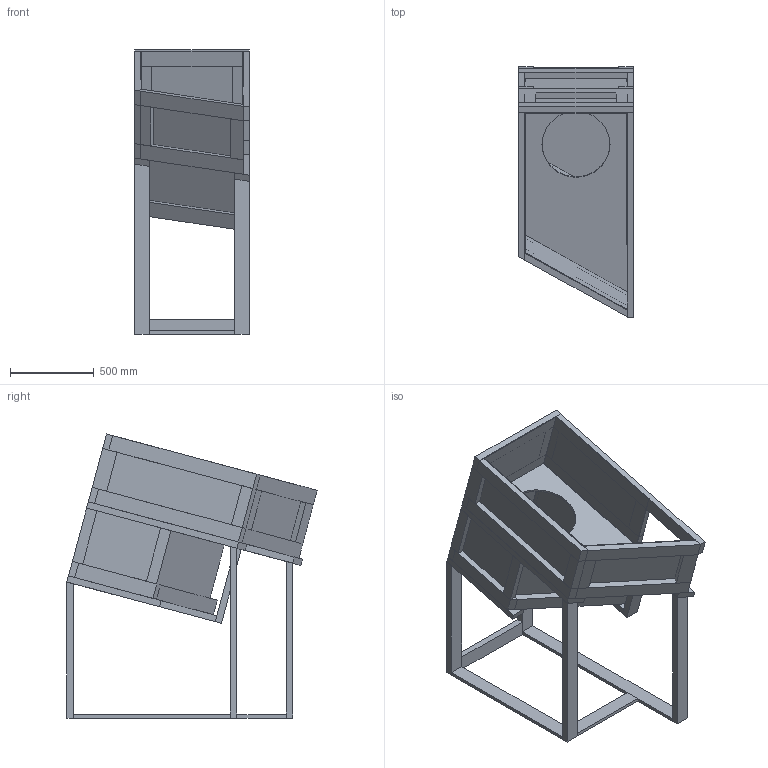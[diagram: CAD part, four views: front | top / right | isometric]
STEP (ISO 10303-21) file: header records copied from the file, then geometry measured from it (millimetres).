
FILE_DESCRIPTION(/* description */ (''),/* implementation_level */ '2;1');
FILE_NAME(/* name */ 'PC-Petite_Cible_PARTICIPANTS v23.11.22.A.step',/* time_stamp */ '2023-11-22T02:17:40-05:00',/* author */ (''),/* organization */ (''),/* preprocessor_version */ 'ST-DEVELOPER v20',/* originating_system */ 'Autodesk Translation Framework v12.14.0.127',/* authorisation */ '');
FILE_SCHEMA (('AUTOMOTIVE_DESIGN { 1 0 10303 214 3 1 1 }'));
Length unit declared in the file: inch
Products named in the file (42): PC-Petite_Cible_PARTICIPANTS; PC-Pattes; PC-26_2x4x36.804A15; PC-27-2x4x40.315A15; PC-25_2x4x31.976A15; PC-Interpattes; PC-28_1x4x36.924; PC-29_1x4x50.03; PC-30_2x4x20; PC-31_1x4x20; PC-Étages; PC-Base_Haut; PC-1_Plyw.5-24x48A30; PC-2_2x4x32; PC-6_2x4x52.098AA30; PC-7_2x4x38.53AA30; PC-Base_Bas; PC-8_Plyw.5-24x31.677A30; PC-9_2x4x16; PC-10_2x4x19.876A30; PC-11_2x4x22.53; PC-12_2x4x36.098; PC-Support_Bas; PC-14_2x4x18; PC-13_2x3x13; PC-Support_Haut; PC-16_2x3x9.5; PC-15_2x4x9.5; PC-17_2x4x9.5AAA30; PC-Bordure_Haut; PC-3_2x4x27; PC-4_2x4x35.876A30; PC-5_2x4x30A27.713A30; PC-18_2x4x49.732; PC-Panneaux_Haut; PC-20_Acr.118-33.923x16; PC-22_Acr.118-31.882x16; PC-Panneaux_Bas; PC-23_Acr.118-17.923x16; PC-24_Acr.118-15.882x16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
Assembly tree (57 placements, depth 4):
  PC-Petite_Cible_PARTICIPANTS
    PC-Pattes
      PC-25_2x4x31.976A15  x2
      PC-26_2x4x36.804A15
      PC-27-2x4x40.315A15
    PC-Interpattes
      PC-28_1x4x36.924
      PC-29_1x4x50.03
      PC-30_2x4x20
      PC-31_1x4x20
    PC-Étages
      PC-Base_Haut
        PC-1_Plyw.5-24x48A30
        PC-2_2x4x32
        PC-3_2x4x27
        PC-4_2x4x35.876A30
        PC-5_2x4x30A27.713A30
        PC-6_2x4x52.098AA30
        PC-7_2x4x38.53AA30
      PC-Base_Bas
        PC-5_2x4x30A27.713A30
        PC-8_Plyw.5-24x31.677A30
        PC-9_2x4x16
        PC-10_2x4x19.876A30
        PC-11_2x4x22.53
        PC-12_2x4x36.098
        PC-3_2x4x27
      PC-Support_Bas
        PC-13_2x3x13  x4
        PC-14_2x4x18
      PC-Support_Haut
        PC-15_2x4x9.5  x3
        PC-16_2x3x9.5  x2
        PC-17_2x4x9.5AAA30  x3
      PC-Bordure_Haut
        PC-3_2x4x27
        PC-4_2x4x35.876A30
        PC-5_2x4x30A27.713A30
        PC-18_2x4x49.732
      PC-Panneaux_Haut
        PC-19_Acr.118-27.645x16
        PC-20_Acr.118-33.923x16
        PC-21_Acr.118-24x16
        PC-22_Acr.118-31.882x16
      PC-Panneaux_Bas
        PC-23_Acr.118-17.923x16
        PC-24_Acr.118-15.882x16
        PC-19_Acr.118-27.645x16
        PC-21_Acr.118-24x16
Bounding box: 685.8 x 1493.62 x 1695.43 mm (x, y, z)
Volume: 89511051.9 mm3; surface area: 12034354.7 mm2
Topology: 47 solids, 47 shells, 283 faces, 567 edges, 378 vertices
Faces by surface type: plane 282, cylinder 1
Full cylindrical faces by diameter (mm): 406.4 x1
Entity records: 6135 total; most frequent: DIRECTION 951, CARTESIAN_POINT 912, ORIENTED_EDGE 750, EDGE_CURVE 375, LINE 373, VECTOR 373, AXIS2_PLACEMENT_3D 289, VERTEX_POINT 250
